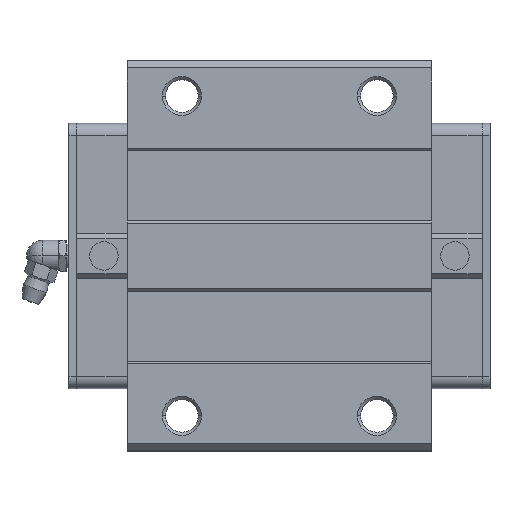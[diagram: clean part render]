
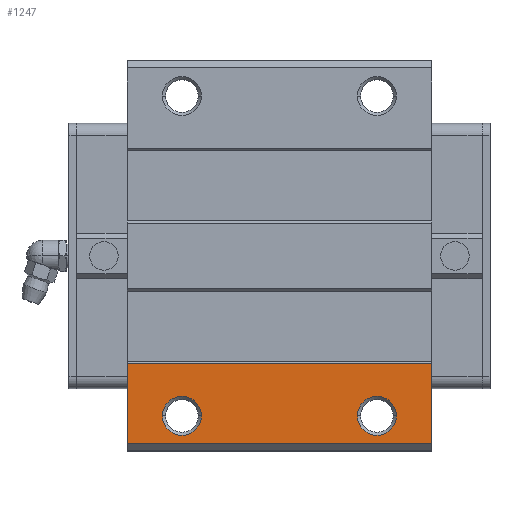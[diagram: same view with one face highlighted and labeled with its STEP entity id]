
A CAD part, top view. The second image highlights one B-rep face of the part: STEP entity #1247.
In plain terms, the highlighted planar face has unit normal (0, 0, 1).
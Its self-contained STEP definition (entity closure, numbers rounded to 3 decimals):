
#470=CARTESIAN_POINT('POINT35',(24.,-41.,37.));
#471=VERTEX_POINT('VERTEX35',#470);
#479=CARTESIAN_POINT('POINT36',(34.,-41.,37.));
#480=VERTEX_POINT('VERTEX36',#479);
#487=CARTESIAN_POINT('POS54',(29.,-41.,37.));
#488=DIRECTION('DIR82',(0.,0.,-1.));
#489=DIRECTION('DIR83',(1.,0.,0.));
#490=AXIS2_PLACEMENT_3D('AXIS29',#487,#488,#489);
#491=CIRCLE('ELLIPSE17',#490,5.);
#492=EDGE_CURVE('EDGE52',#471,#480,#491,.T.);
#503=EDGE_CURVE('EDGE53',#480,#471,#491,.T.);
#510=CARTESIAN_POINT('POINT37',(74.,-41.,37.));
#511=VERTEX_POINT('VERTEX37',#510);
#519=CARTESIAN_POINT('POINT38',(84.,-41.,37.));
#520=VERTEX_POINT('VERTEX38',#519);
#527=CARTESIAN_POINT('POS58',(79.,-41.,37.));
#528=DIRECTION('DIR88',(0.,0.,-1.));
#529=DIRECTION('DIR89',(1.,0.,0.));
#530=AXIS2_PLACEMENT_3D('AXIS31',#527,#528,#529);
#531=CIRCLE('ELLIPSE18',#530,5.);
#532=EDGE_CURVE('EDGE56',#511,#520,#531,.T.);
#543=EDGE_CURVE('EDGE57',#520,#511,#531,.T.);
#1178=CARTESIAN_POINT('POINT83',(93.,-48.2,37.));
#1179=VERTEX_POINT('VERTEX83',#1178);
#1186=CARTESIAN_POINT('POINT84',(15.,-48.2,37.));
#1187=VERTEX_POINT('VERTEX84',#1186);
#1188=CARTESIAN_POINT('POS128',(15.,-48.2,37.));
#1189=DIRECTION('DIR189',(1.,0.,0.));
#1190=VECTOR('VEC67',#1189,1.);
#1191=LINE('STRAIGHT67',#1188,#1190);
#1192=EDGE_CURVE('EDGE123',#1187,#1179,#1191,.T.);
#1209=ORIENTED_EDGE('COEDGE205',*,*,#543,.T.);
#1210=ORIENTED_EDGE('COEDGE206',*,*,#532,.T.);
#1211=EDGE_LOOP('NONE',(#1209,#1210));
#1212=FACE_BOUND('LOOP1',#1211,.T.);
#1213=ORIENTED_EDGE('COEDGE207',*,*,#503,.T.);
#1214=ORIENTED_EDGE('COEDGE208',*,*,#492,.T.);
#1215=EDGE_LOOP('NONE',(#1213,#1214));
#1216=FACE_BOUND('LOOP1',#1215,.T.);
#1217=CARTESIAN_POINT('POINT85',(93.,-27.65,37.));
#1218=VERTEX_POINT('VERTEX85',#1217);
#1219=CARTESIAN_POINT('POS131',(93.,-48.2,37.));
#1220=DIRECTION('DIR193',(0.,1.,0.));
#1221=VECTOR('VEC69',#1220,1.);
#1222=LINE('STRAIGHT69',#1219,#1221);
#1223=EDGE_CURVE('EDGE125',#1179,#1218,#1222,.T.);
#1224=ORIENTED_EDGE('COEDGE209',*,*,#1223,.T.);
#1225=CARTESIAN_POINT('POINT86',(15.,-27.65,37.));
#1226=VERTEX_POINT('VERTEX86',#1225);
#1227=CARTESIAN_POINT('POS132',(15.,-27.65,37.));
#1228=DIRECTION('DIR194',(1.,0.,0.));
#1229=VECTOR('VEC70',#1228,1.);
#1230=LINE('STRAIGHT70',#1227,#1229);
#1231=EDGE_CURVE('EDGE126',#1226,#1218,#1230,.T.);
#1232=ORIENTED_EDGE('COEDGE210',*,*,#1231,.F.);
#1233=CARTESIAN_POINT('POS133',(15.,-48.2,37.));
#1234=DIRECTION('DIR195',(0.,1.,0.));
#1235=VECTOR('VEC71',#1234,1.);
#1236=LINE('STRAIGHT71',#1233,#1235);
#1237=EDGE_CURVE('EDGE127',#1187,#1226,#1236,.T.);
#1238=ORIENTED_EDGE('COEDGE211',*,*,#1237,.F.);
#1239=ORIENTED_EDGE('COEDGE212',*,*,#1192,.T.);
#1240=EDGE_LOOP('NONE',(#1224,#1232,#1238,#1239));
#1241=FACE_BOUND('LOOP1',#1240,.T.);
#1242=CARTESIAN_POINT('POS134',(15.,-48.2,37.));
#1243=DIRECTION('DIR196',(0.,0.,1.));
#1244=DIRECTION('DIR197',(1.,0.,0.));
#1245=AXIS2_PLACEMENT_3D('AXIS63',#1242,#1243,#1244);
#1246=PLANE('PLANE17',#1245);
#1247=ADVANCED_FACE('FACE43',(#1212,#1216,#1241),#1246,.T.);
